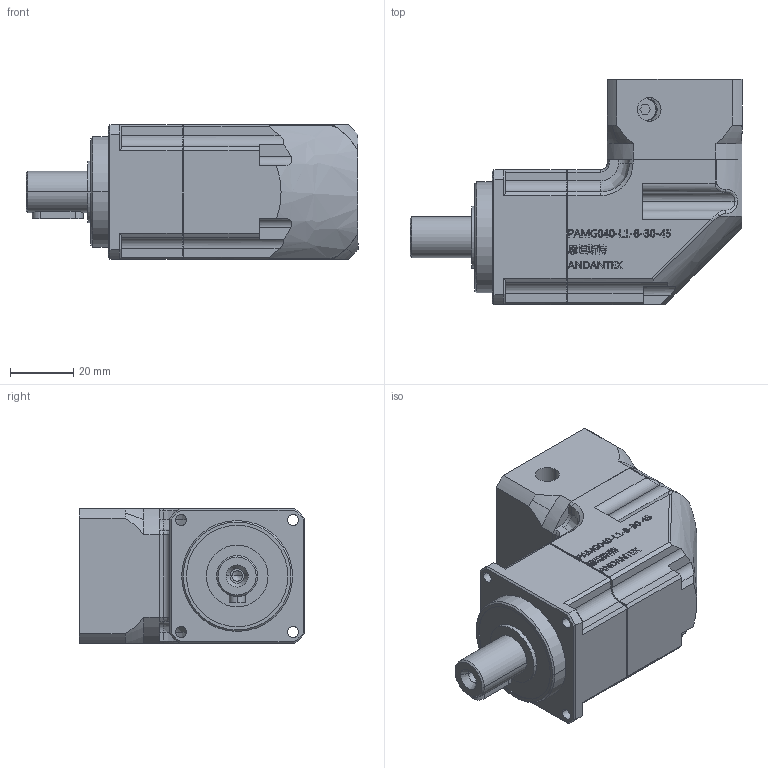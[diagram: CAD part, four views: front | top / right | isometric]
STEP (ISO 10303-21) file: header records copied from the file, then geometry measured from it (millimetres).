
FILE_DESCRIPTION (( 'STEP AP203' ), '1' );
FILE_NAME ('PAMG040-L1-8-30-45.STEP', '2022-07-16T08:41:06', ( 'Windows User' ), ( 'P R C' ), 'SwSTEP 2.0', 'SolidWorks 2016', '' );
FILE_SCHEMA (( 'CONFIG_CONTROL_DESIGN' ));
Length unit declared in the file: millimetre
Products named in the file (9): PAMG040-SJH(坶踡遠謂11); GB／T70．1-2000内六角圆柱头螺钉M4×12; 5X5X16; PAMG040-L1-8-30-45; PAMG040-眊极; PAMG040-CQ01; GB／T276-94深沟球轴承6002-2Z; PAMG040-喘謫粣_GearTrax; PAMG040-蟀諉啣-30-45-M3
Assembly tree (8 placements, depth 2):
  PAMG040-L1-8-30-45
    PAMG040-眊极
    PAMG040-CQ01
    GB／T276-94深沟球轴承6002-2Z
    PAMG040-喘謫粣_GearTrax
    PAMG040-蟀諉啣-30-45-M3
    PAMG040-SJH(坶踡遠謂11)
    GB／T70．1-2000内六角圆柱头螺钉M4×12
    5X5X16
Bounding box: 104.8 x 71.1 x 42.6 mm (x, y, z)
Volume: 158012 mm3; surface area: 47415 mm2
Topology: 8 solids, 8 shells, 1148 faces, 3093 edges, 2018 vertices
Faces by surface type: plane 584, bspline 293, cylinder 197, cone 74
Entity records: 47977 total; most frequent: CARTESIAN_POINT 20092, ORIENTED_EDGE 6146, DIRECTION 4683, EDGE_CURVE 3073, VERTEX_POINT 2018, LINE 1721, VECTOR 1721, AXIS2_PLACEMENT_3D 1481
